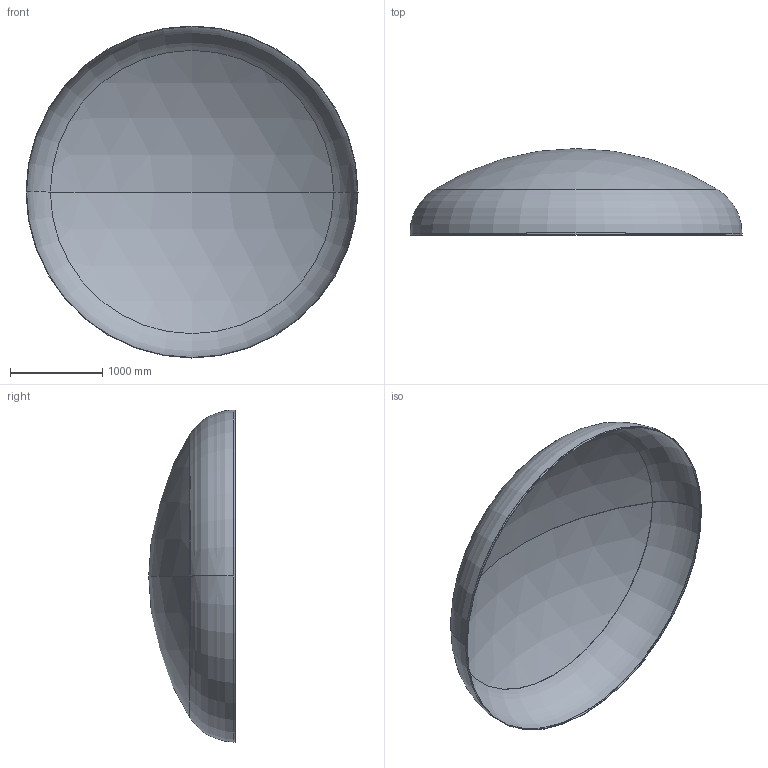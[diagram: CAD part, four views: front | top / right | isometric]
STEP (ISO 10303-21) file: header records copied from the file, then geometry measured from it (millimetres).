
FILE_DESCRIPTION (( 'STEP AP203' ), '1' );
FILE_NAME ('DIN 28013 Korbbogenform_-_Boden DIN 28013 - 3600 x 20 - I - s=5.step', '2016-07-01T20:01:09', ( '' ), ( '' ), 'SwSTEP 2.0', 'SolidWorks 2013', '' );
FILE_SCHEMA (( 'CONFIG_CONTROL_DESIGN' ));
Length unit declared in the file: millimetre
Products named in the file (1): DIN 28013 Korbbogenform_-_Boden DIN 28013 - 3600 x 20 - I - s=5
Bounding box: 3600 x 938.27 x 3600 mm (x, y, z)
Volume: 71509489.1 mm3; surface area: 28660306.3 mm2
Topology: 1 solids, 1 shells, 13 faces, 24 edges, 14 vertices
Faces by surface type: torus 4, cylinder 4, sphere 4, plane 1
Entity records: 407 total; most frequent: DIRECTION 72, CARTESIAN_POINT 52, ORIENTED_EDGE 48, AXIS2_PLACEMENT_3D 34, EDGE_CURVE 24, CIRCLE 20, EDGE_LOOP 14, VERTEX_POINT 14
